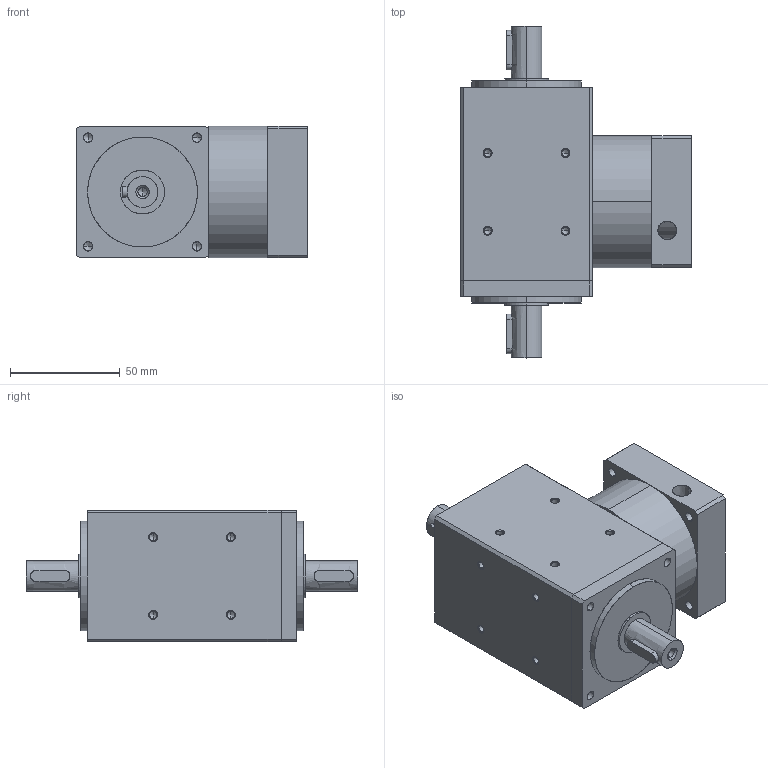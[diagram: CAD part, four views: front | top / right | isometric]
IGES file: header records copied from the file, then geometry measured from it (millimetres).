
Start section: SolidWorks IGES file using analytic representation for surfaces
Global section: file name: C:\Users\render\Documents\CAD Files\R-Gearboxes\RABS\RABS-060.IGS; native system: SolidWorks 2009; preprocessor: SolidWorks 2009; author: render; date: 100527.144521; units: millimetre
Bounding box: 105 x 151 x 60 mm (x, y, z)
Surface area: 65868.1 mm2 (no closed solid volume)
Topology: 0 solids, 0 shells, 217 faces, 3563 edges, 3519 vertices
Faces by surface type: revolution 175, bspline 42
